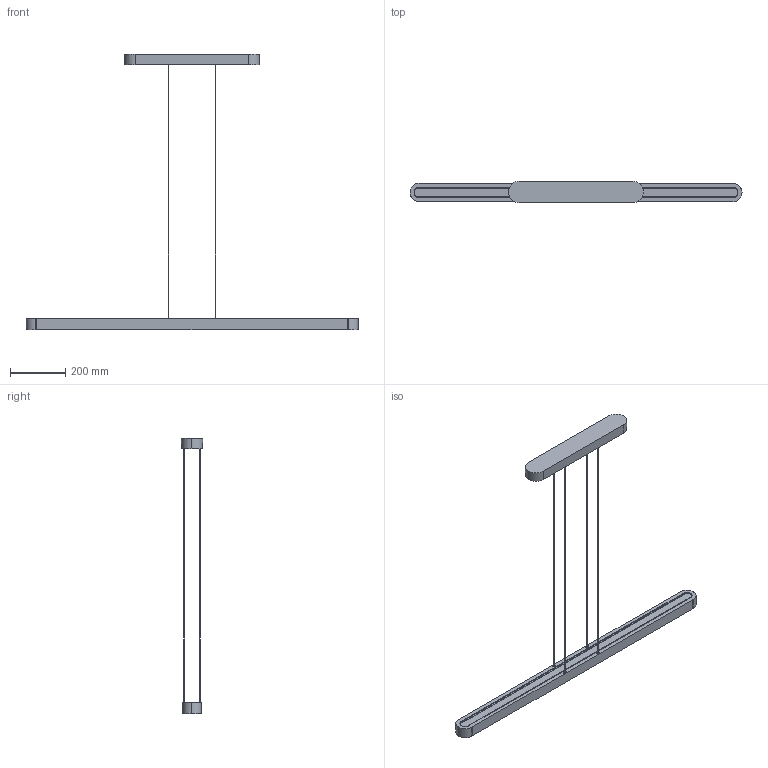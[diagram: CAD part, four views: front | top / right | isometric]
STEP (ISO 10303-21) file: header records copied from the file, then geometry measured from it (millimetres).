
FILE_DESCRIPTION(/* description */ (''),/* implementation_level */ '2;1');
FILE_NAME(/* name */ 'Talo_Sospensione_120_3D',/* time_stamp */ '2012-01-31T12:45:18+01:00',/* author */ (''),/* organization */ (''),/* preprocessor_version */ 'ST-DEVELOPER v10',/* originating_system */ '',/* authorisation */ '');
FILE_SCHEMA (('CONFIG_CONTROL_DESIGN'));
Length unit declared in the file: millimetre
Products named in the file (1): 1
Bounding box: 1205 x 78 x 1000 mm (x, y, z)
Volume: 3409347 mm3; surface area: 741439.1 mm2
Topology: 4 solids, 4 shells, 122 faces, 308 edges, 204 vertices
Faces by surface type: bspline 72, plane 50
Entity records: 4118 total; most frequent: CARTESIAN_POINT 2184, ORIENTED_EDGE 616, EDGE_CURVE 308, VERTEX_POINT 204, B_SPLINE_CURVE_WITH_KNOTS 164, EDGE_LOOP 136, ADVANCED_FACE 122, FACE_OUTER_BOUND 122
